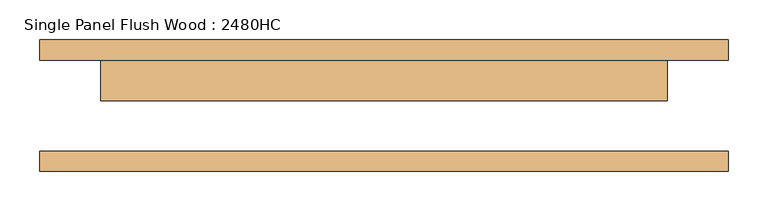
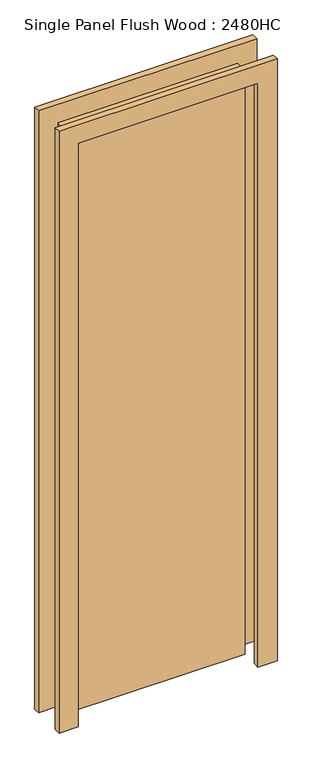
"""IFC4 building model written with IfcOpenShell, lengths in millimetres: door geometry, Single Panel Flush Wood : 2480HC."""

from ifc_helpers import new_model, si_unit, frame, origin, origin_with_axes, place, context, project, spatial, polyline, outline, extrude, source, transform, mapped, element, save


def single_panel_flush_wood_2480hc_d470d140(model_context):
    return source(origin(), model_context, "Body", "SweptSolid", [
        extrude(outline(polyline([(2514.6, -431.8), (0.0, -431.8), (0.0, -355.6), (2438.4, -355.6), (2438.4, 355.6), (0.0, 355.6), (0.0, 431.8), (2514.6, 431.8), (2514.6, -431.8)])), frame((0.0, 57.15, 0.0), z_axis=(0.0, 1.0, 0.0), x_axis=(0.0, 0.0, 1.0)), (0.0, 0.0, 1.0), 25.4),
        extrude(outline(polyline([(2514.6, 431.8), (2514.6, -431.8), (0.0, -431.8), (0.0, -355.6), (2438.4, -355.6), (2438.4, 355.6), (0.0, 355.6), (0.0, 431.8), (2514.6, 431.8)])), frame((0.0, -82.55, 0.0), z_axis=(0.0, 1.0, 0.0), x_axis=(0.0, 0.0, 1.0)), (0.0, 0.0, 1.0), 25.4),
        extrude(outline(polyline([(355.6, 6.35), (-355.6, 6.35), (-355.6, 57.15), (355.6, 57.15), (355.6, 6.35)])), origin_with_axes(), (0.0, 0.0, 1.0), 2438.4),
    ])


if __name__ == "__main__":
    model = new_model("IFC4")
    model_context = context("Model", 3, world=origin())
    ifc_project = project(units=[si_unit("LENGTHUNIT", "METRE", prefix="MILLI")], contexts=[model_context])
    site = spatial("IfcSite", under=ifc_project)
    building = spatial("IfcBuilding", under=site)
    placement = place(None, origin())
    single_panel_flush_wood_2480hc_shape = single_panel_flush_wood_2480hc_d470d140(model_context)
    element("IfcDoor", 1, ObjectType="Single Panel Flush Wood : 2480HC", at=placement, inside=building, context=model_context, shape_type="MappedRepresentation", body=[
        mapped(single_panel_flush_wood_2480hc_shape, transform((0.0, 0.0, 0.0), x_axis=(1.0, 0.0, 0.0), y_axis=(0.0, 1.0, 0.0), z_axis=(0.0, 0.0, 1.0))),
    ])
    save(model, "model.ifc")
